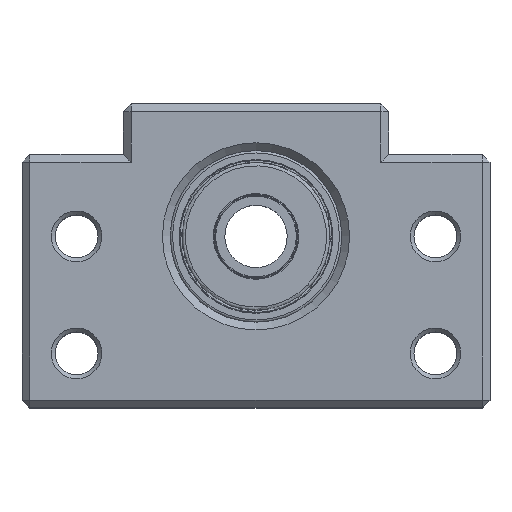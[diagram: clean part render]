
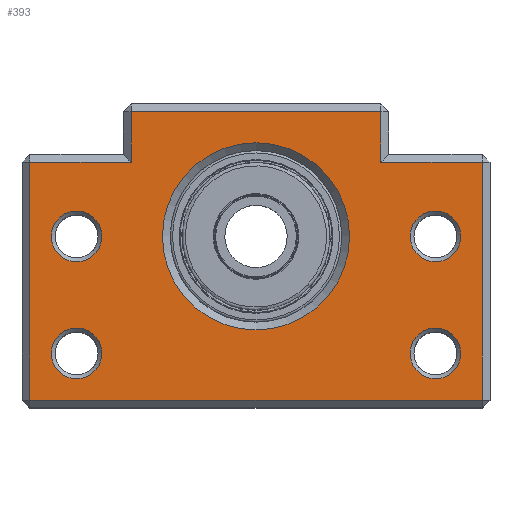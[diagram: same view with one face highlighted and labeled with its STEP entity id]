
A CAD part, top view. The second image highlights one B-rep face of the part: STEP entity #393.
In plain terms, the highlighted planar face has unit normal (0, 0, 1).
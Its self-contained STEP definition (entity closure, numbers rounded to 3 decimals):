
#393=ADVANCED_FACE('',(#1678,#1680,#1682,#1684,#1686,#1688),#1690,.T.);
#1678=FACE_BOUND('',#1679,.T.);
#1679=EDGE_LOOP('',(#2726,#2727,#2728,#2729,#2730,#2731,#2732,#2733));
#1680=FACE_BOUND('',#1681,.T.);
#1681=EDGE_LOOP('',(#2734));
#1682=FACE_BOUND('',#1683,.T.);
#1683=EDGE_LOOP('',(#2735));
#1684=FACE_BOUND('',#1685,.T.);
#1685=EDGE_LOOP('',(#2736));
#1686=FACE_BOUND('',#1687,.T.);
#1687=EDGE_LOOP('',(#2737));
#1688=FACE_BOUND('',#1689,.T.);
#1689=EDGE_LOOP('',(#2738));
#1690=PLANE('',#1691);
#1691=AXIS2_PLACEMENT_3D('',#1692,#1693,#1694);
#1692=CARTESIAN_POINT('',(-30.,0.,10.));
#1693=DIRECTION('',(-0.,0.,1.));
#1694=DIRECTION('',(1.,0.,0.));
#2726=ORIENTED_EDGE('',*,*,#3113,.T.);
#2727=ORIENTED_EDGE('',*,*,#3114,.T.);
#2728=ORIENTED_EDGE('',*,*,#3115,.T.);
#2729=ORIENTED_EDGE('',*,*,#3116,.T.);
#2730=ORIENTED_EDGE('',*,*,#3117,.T.);
#2731=ORIENTED_EDGE('',*,*,#3118,.T.);
#2732=ORIENTED_EDGE('',*,*,#3119,.T.);
#2733=ORIENTED_EDGE('',*,*,#3120,.T.);
#2734=ORIENTED_EDGE('',*,*,#3067,.T.);
#2735=ORIENTED_EDGE('',*,*,#3064,.T.);
#2736=ORIENTED_EDGE('',*,*,#3061,.T.);
#2737=ORIENTED_EDGE('',*,*,#3058,.T.);
#2738=ORIENTED_EDGE('',*,*,#3088,.T.);
#3058=EDGE_CURVE('',#3270,#3270,#3271,.T.);
#3061=EDGE_CURVE('',#3276,#3276,#3277,.T.);
#3064=EDGE_CURVE('',#3282,#3282,#3283,.T.);
#3067=EDGE_CURVE('',#3288,#3288,#3289,.T.);
#3088=EDGE_CURVE('',#3330,#3330,#3331,.T.);
#3113=EDGE_CURVE('',#3380,#3381,#3382,.T.);
#3114=EDGE_CURVE('',#3381,#3383,#3384,.T.);
#3115=EDGE_CURVE('',#3383,#3385,#3386,.T.);
#3116=EDGE_CURVE('',#3385,#3387,#3388,.T.);
#3117=EDGE_CURVE('',#3387,#3389,#3390,.T.);
#3118=EDGE_CURVE('',#3389,#3391,#3392,.T.);
#3119=EDGE_CURVE('',#3391,#3393,#3394,.T.);
#3120=EDGE_CURVE('',#3393,#3380,#3395,.T.);
#3270=VERTEX_POINT('',#3652);
#3271=CIRCLE('',#3653,3.25);
#3276=VERTEX_POINT('',#3667);
#3277=CIRCLE('',#3668,3.25);
#3282=VERTEX_POINT('',#3682);
#3283=CIRCLE('',#3683,3.25);
#3288=VERTEX_POINT('',#3697);
#3289=CIRCLE('',#3698,3.25);
#3330=VERTEX_POINT('',#4105);
#3331=CIRCLE('',#4106,12.);
#3380=VERTEX_POINT('',#6602);
#3381=VERTEX_POINT('',#6603);
#3382=LINE('',#6604,#6605);
#3383=VERTEX_POINT('',#6607);
#3384=LINE('',#6608,#6609);
#3385=VERTEX_POINT('',#6611);
#3386=LINE('',#6612,#6613);
#3387=VERTEX_POINT('',#6615);
#3388=LINE('',#6616,#6617);
#3389=VERTEX_POINT('',#6619);
#3390=LINE('',#6620,#6621);
#3391=VERTEX_POINT('',#6623);
#3392=LINE('',#6624,#6625);
#3393=VERTEX_POINT('',#6627);
#3394=LINE('',#6628,#6629);
#3395=LINE('',#6631,#6632);
#3652=CARTESIAN_POINT('',(-19.75,22.,10.));
#3653=AXIS2_PLACEMENT_3D('',#3654,#3655,#3656);
#3654=CARTESIAN_POINT('',(-23.,22.,10.));
#3655=DIRECTION('',(0.,-0.,-1.));
#3656=DIRECTION('',(1.,0.,0.));
#3667=CARTESIAN_POINT('',(-19.75,7.,10.));
#3668=AXIS2_PLACEMENT_3D('',#3669,#3670,#3671);
#3669=CARTESIAN_POINT('',(-23.,7.,10.));
#3670=DIRECTION('',(0.,-0.,-1.));
#3671=DIRECTION('',(1.,0.,0.));
#3682=CARTESIAN_POINT('',(26.25,22.,10.));
#3683=AXIS2_PLACEMENT_3D('',#3684,#3685,#3686);
#3684=CARTESIAN_POINT('',(23.,22.,10.));
#3685=DIRECTION('',(0.,-0.,-1.));
#3686=DIRECTION('',(1.,0.,0.));
#3697=CARTESIAN_POINT('',(26.25,7.,10.));
#3698=AXIS2_PLACEMENT_3D('',#3699,#3700,#3701);
#3699=CARTESIAN_POINT('',(23.,7.,10.));
#3700=DIRECTION('',(0.,-0.,-1.));
#3701=DIRECTION('',(1.,0.,0.));
#4105=CARTESIAN_POINT('',(12.,22.,10.));
#4106=AXIS2_PLACEMENT_3D('',#4107,#4108,#4109);
#4107=CARTESIAN_POINT('',(0.,22.,10.));
#4108=DIRECTION('',(0.,-0.,-1.));
#4109=DIRECTION('',(1.,0.,0.));
#6602=CARTESIAN_POINT('',(16.,38.,10.));
#6603=CARTESIAN_POINT('',(-16.,38.,10.));
#6604=CARTESIAN_POINT('',(16.,38.,10.));
#6605=VECTOR('',#6606,1.);
#6606=DIRECTION('',(-1.,0.,0.));
#6607=CARTESIAN_POINT('',(-16.,31.5,10.));
#6608=CARTESIAN_POINT('',(-16.,38.,10.));
#6609=VECTOR('',#6610,1.);
#6610=DIRECTION('',(0.,-1.,0.));
#6611=CARTESIAN_POINT('',(-29.,31.5,10.));
#6612=CARTESIAN_POINT('',(-16.,31.5,10.));
#6613=VECTOR('',#6614,1.);
#6614=DIRECTION('',(-1.,0.,0.));
#6615=CARTESIAN_POINT('',(-29.,1.,10.));
#6616=CARTESIAN_POINT('',(-29.,31.5,10.));
#6617=VECTOR('',#6618,1.);
#6618=DIRECTION('',(0.,-1.,0.));
#6619=CARTESIAN_POINT('',(29.,1.,10.));
#6620=CARTESIAN_POINT('',(-29.,1.,10.));
#6621=VECTOR('',#6622,1.);
#6622=DIRECTION('',(1.,0.,0.));
#6623=CARTESIAN_POINT('',(29.,31.5,10.));
#6624=CARTESIAN_POINT('',(29.,1.,10.));
#6625=VECTOR('',#6626,1.);
#6626=DIRECTION('',(0.,1.,0.));
#6627=CARTESIAN_POINT('',(16.,31.5,10.));
#6628=CARTESIAN_POINT('',(29.,31.5,10.));
#6629=VECTOR('',#6630,1.);
#6630=DIRECTION('',(-1.,0.,0.));
#6631=CARTESIAN_POINT('',(16.,31.5,10.));
#6632=VECTOR('',#6633,1.);
#6633=DIRECTION('',(0.,1.,0.));
